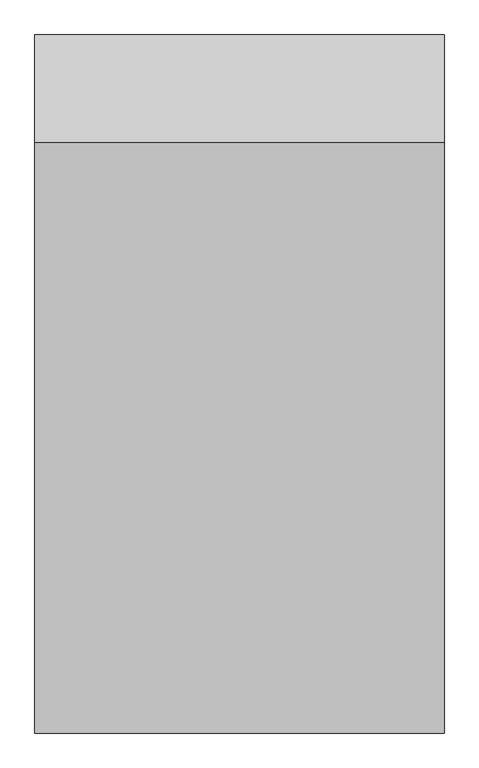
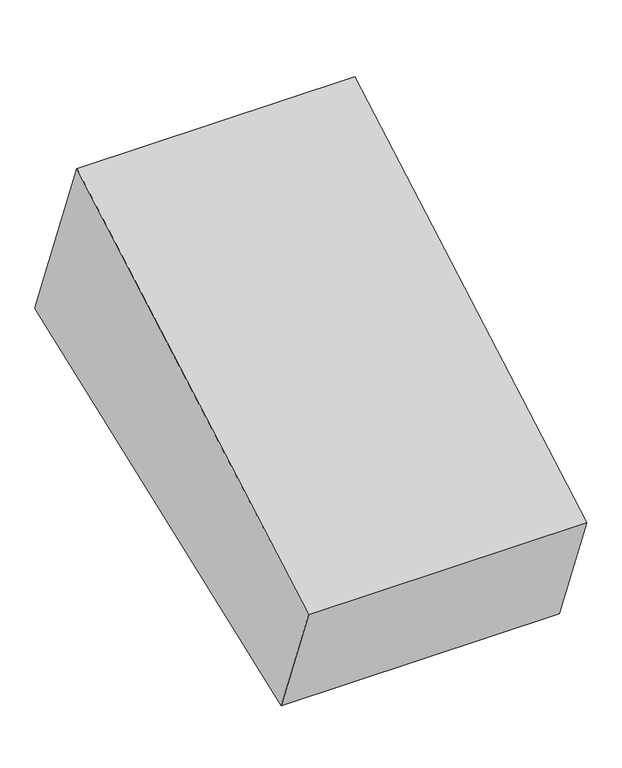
"""IFC4 building model written with IfcOpenShell, lengths in millimetres: proxy geometry, Excavation FamilySP : Excavation FamilySP."""

import ifcopenshell
import ifcopenshell.guid

model = None  # the IFC model being written
_history = None  # IfcOwnerHistory: only IFC2X3 demands one
_inside = {}  # id of a spatial element -> (the spatial element, [elements in it])
_under = {}  # id of a project, library or spatial element -> (it, [spatial elements below it])
_declared = {}  # id of a project -> (the project, [libraries it declares])
_typed = {}  # id of a type object -> (the type object, [elements of that type])
_made_of = {}  # id of a material, layer set ... -> (it, [elements and type objects made of it])


def new_model(schema):
    """Start an empty IFC model of exactly this schema.

    Asked for "IFC4X3", IfcOpenShell would pick the latest addendum, in which some entities
    have other attributes; the version numbers below select the first issue.
    IFC2X3 requires an IfcOwnerHistory on every rooted entity: one is made here for all.
    """
    global model, _history
    if schema == "IFC4X3":
        model = ifcopenshell.file(schema_version=(4, 3, 0, 0))
    else:
        model = ifcopenshell.file(schema=schema)
    _inside.clear()
    _under.clear()
    _declared.clear()
    _typed.clear()
    _made_of.clear()
    _history = None
    if model.schema == "IFC2X3":
        org = make("IfcOrganization", Name="unknown")
        user = make(
            "IfcPersonAndOrganization",
            ThePerson=make("IfcPerson", FamilyName="unknown"),
            TheOrganization=org,
        )
        app = make(
            "IfcApplication",
            ApplicationDeveloper=org,
            Version="unknown",
            ApplicationFullName="unknown",
            ApplicationIdentifier="unknown",
        )
        _history = make(
            "IfcOwnerHistory",
            OwningUser=user,
            OwningApplication=app,
            ChangeAction="ADDED",
            CreationDate=0,
        )
    return model


def make(cls, **values):
    """One entity of the class cls with the attributes given. An attribute that is None is left unset."""
    return model.create_entity(
        cls, **{name: value for name, value in values.items() if value is not None}
    )


def rooted(cls, **values):
    """An entity with a GlobalId (a new one), such as an element, a storey or a relation."""
    return make(cls, GlobalId=ifcopenshell.guid.new(), OwnerHistory=_history, **values)


def si_unit(unit_type, name, prefix=None):
    """IfcSIUnit, for example si_unit("LENGTHUNIT", "METRE", prefix="MILLI")."""
    return make("IfcSIUnit", UnitType=unit_type, Prefix=prefix, Name=name)


def assignment(units):
    """IfcUnitAssignment: the units of a project."""
    return None if units is None else make("IfcUnitAssignment", Units=units)


def point(xyz):
    """IfcCartesianPoint."""
    return None if xyz is None else make("IfcCartesianPoint", Coordinates=xyz)


def direction(xyz):
    """IfcDirection."""
    return None if xyz is None else make("IfcDirection", DirectionRatios=xyz)


def frame(location, z_axis=None, x_axis=None):
    """IfcAxis2Placement3D, a coordinate frame: its origin and axes. An axis left out is left unset."""
    return make(
        "IfcAxis2Placement3D",
        Location=point(location),
        Axis=direction(z_axis),
        RefDirection=direction(x_axis),
    )


def origin():
    """The frame at (0, 0, 0) with its axes left unset."""
    return frame((0.0, 0.0, 0.0))


def place(relative_to, where):
    """IfcLocalPlacement: puts the frame where relative to a parent placement (None: the world)."""
    return make(
        "IfcLocalPlacement", PlacementRelTo=relative_to, RelativePlacement=where
    )


def context(
    kind, dimensions, precision=None, world=None, true_north=None, identifier=None
):
    """IfcGeometricRepresentationContext, for example the 3D "Model" context."""
    return make(
        "IfcGeometricRepresentationContext",
        ContextIdentifier=identifier,
        ContextType=kind,
        CoordinateSpaceDimension=dimensions,
        Precision=precision,
        WorldCoordinateSystem=world,
        TrueNorth=true_north,
    )


def project(units=None, contexts=None):
    """IfcProject with its units and contexts."""
    return rooted(
        "IfcProject",
        Name="project",
        RepresentationContexts=contexts,
        UnitsInContext=assignment(units),
    )


def spatial(cls, under=None, at=None, **own):
    """A site, building, storey or space (cls), placed at a placement, below another one or the project."""
    s = rooted(cls, ObjectPlacement=at, **own)
    if under is not None:
        _under.setdefault(under.id(), (under, []))[1].append(s)
    return s


def polyline(points):
    """IfcPolyline through the points."""
    return make("IfcPolyline", Points=[point(p) for p in points])


def outline(outer, holes=None, kind="AREA"):
    """IfcArbitraryClosedProfileDef: a profile drawn as a closed curve; with holes, ...WithVoids."""
    if holes is None:
        return make("IfcArbitraryClosedProfileDef", ProfileType=kind, OuterCurve=outer)
    return make(
        "IfcArbitraryProfileDefWithVoids",
        ProfileType=kind,
        OuterCurve=outer,
        InnerCurves=holes,
    )


def extrude(swept, where, along, depth):
    """IfcExtrudedAreaSolid: the profile swept, set in the frame where, extruded along a direction by depth."""
    return make(
        "IfcExtrudedAreaSolid",
        SweptArea=swept,
        Position=where,
        ExtrudedDirection=direction(along),
        Depth=depth,
    )


def shape(context_of_items, identifier, shape_type, items):
    """IfcShapeRepresentation: the items that make up one representation, for example the "Body"."""
    return make(
        "IfcShapeRepresentation",
        ContextOfItems=context_of_items,
        RepresentationIdentifier=identifier,
        RepresentationType=shape_type,
        Items=items,
    )


def source(mapping_origin, context_of_items, identifier, shape_type, items):
    """IfcRepresentationMap: a shape defined once, which mapped items show again and again."""
    return make(
        "IfcRepresentationMap",
        MappingOrigin=mapping_origin,
        MappedRepresentation=shape(context_of_items, identifier, shape_type, items),
    )


def transform(
    local_origin,
    x_axis=None,
    y_axis=None,
    z_axis=None,
    scale=None,
    scale2=None,
    scale3=None,
    uniform=True,
):
    """IfcCartesianTransformationOperator3D, or its non-uniform kind. x_axis, y_axis, z_axis: its Axis1, 2, 3."""
    if uniform:
        return make(
            "IfcCartesianTransformationOperator3D",
            Axis1=direction(x_axis),
            Axis2=direction(y_axis),
            LocalOrigin=point(local_origin),
            Scale=scale,
            Axis3=direction(z_axis),
        )
    return make(
        "IfcCartesianTransformationOperator3DnonUniform",
        Axis1=direction(x_axis),
        Axis2=direction(y_axis),
        LocalOrigin=point(local_origin),
        Scale=scale,
        Axis3=direction(z_axis),
        Scale2=scale2,
        Scale3=scale3,
    )


def mapped(mapping_source, mapping_target):
    """IfcMappedItem: shows the shape of a source again, moved by a transform."""
    return make(
        "IfcMappedItem", MappingSource=mapping_source, MappingTarget=mapping_target
    )


def made_of(thing, what):
    """Note that an element or type object is made of a material, layer set ...; save() writes the relation."""
    if what is not None:
        _made_of.setdefault(what.id(), (what, []))[1].append(thing)
    return thing


def element(
    cls,
    number,
    at=None,
    inside=None,
    cuts=None,
    type_object=None,
    material=None,
    context=None,
    identifier="Body",
    shape_type=None,
    held_by="IfcProductDefinitionShape",
    body=None,
    shapes=None,
    **own,
):
    """One element of the class cls, such as IfcWall. Its Tag is "e" and its number.

    at: its placement. inside: the storey or other place that contains it. cuts: it is an
    opening in that element (IfcRelVoidsElement). A single representation is given by context,
    identifier, shape_type and body (its items); several are given by shapes. held_by: the class
    of the entity that holds the representations. save() writes the other relations.
    """
    e = rooted(cls, Tag="e%d" % number, ObjectPlacement=at, **own)
    if body is not None:
        shapes = [shape(context, identifier, shape_type, body)]
    if shapes is not None:
        e.Representation = make(held_by, Representations=shapes)
    if inside is not None:
        _inside.setdefault(inside.id(), (inside, []))[1].append(e)
    if cuts is not None:
        rooted(
            "IfcRelVoidsElement", RelatingBuildingElement=cuts, RelatedOpeningElement=e
        )
    if type_object is not None:
        _typed.setdefault(type_object.id(), (type_object, []))[1].append(e)
    return made_of(e, material)


def aggregate(whole, parts):
    """IfcRelAggregates: a whole, such as a stair, and the parts it consists of."""
    return rooted("IfcRelAggregates", RelatingObject=whole, RelatedObjects=parts)


def save(model, path):
    """Write the relations noted so far, then the file.

    IfcRelAggregates (storeys below a building ...), IfcRelContainedInSpatialStructure (elements
    in a storey), IfcRelDefinesByType, IfcRelAssociatesMaterial and IfcRelDeclares: one each for
    every whole, place, type object, material and project.
    """
    for whole, parts in _under.values():
        aggregate(whole, parts)
    for where, things in _inside.values():
        rooted(
            "IfcRelContainedInSpatialStructure",
            RelatedElements=things,
            RelatingStructure=where,
        )
    for kind, things in _typed.values():
        rooted("IfcRelDefinesByType", RelatedObjects=things, RelatingType=kind)
    for what, things in _made_of.values():
        rooted("IfcRelAssociatesMaterial", RelatedObjects=things, RelatingMaterial=what)
    for by, libraries in _declared.values():
        rooted("IfcRelDeclares", RelatingContext=by, RelatedDefinitions=libraries)
    model.write(path)


def generic_models_5fb7a897(model_context):
    return source(origin(), model_context, "Body", "SweptSolid", [
        extrude(outline(polyline([(-796.899236, 2098.0198706), (0.0, 0.0), (-4674.1755364, -1775.4106936), (-5194.1284283, -406.5155438), (-796.899236, 2098.0198706)])), frame((-1524.0, 0.0, 0.0), z_axis=(1.0, 0.0, 0.0), x_axis=(0.0, 1.0, 0.0)), (0.0, 0.0, 1.0), 3048.0),
    ])


if __name__ == "__main__":
    model = new_model("IFC4")
    model_context = context("Model", 3, world=origin())
    ifc_project = project(units=[si_unit("LENGTHUNIT", "METRE", prefix="MILLI")], contexts=[model_context])
    site = spatial("IfcSite", under=ifc_project)
    building = spatial("IfcBuilding", under=site)
    placement = place(None, origin())
    generic_models_shape = generic_models_5fb7a897(model_context)
    element("IfcBuildingElementProxy", 1, Name="Excavation FamilySP : Excavation FamilySP", ObjectType="Excavation FamilySP : Excavation FamilySP", at=placement, inside=building, context=model_context, shape_type="MappedRepresentation", body=[
        mapped(generic_models_shape, transform((0.0, 0.0, 0.0), x_axis=(1.0, 0.0, 0.0), y_axis=(0.0, 1.0, 0.0), z_axis=(0.0, 0.0, 1.0))),
    ])
    save(model, "model.ifc")
